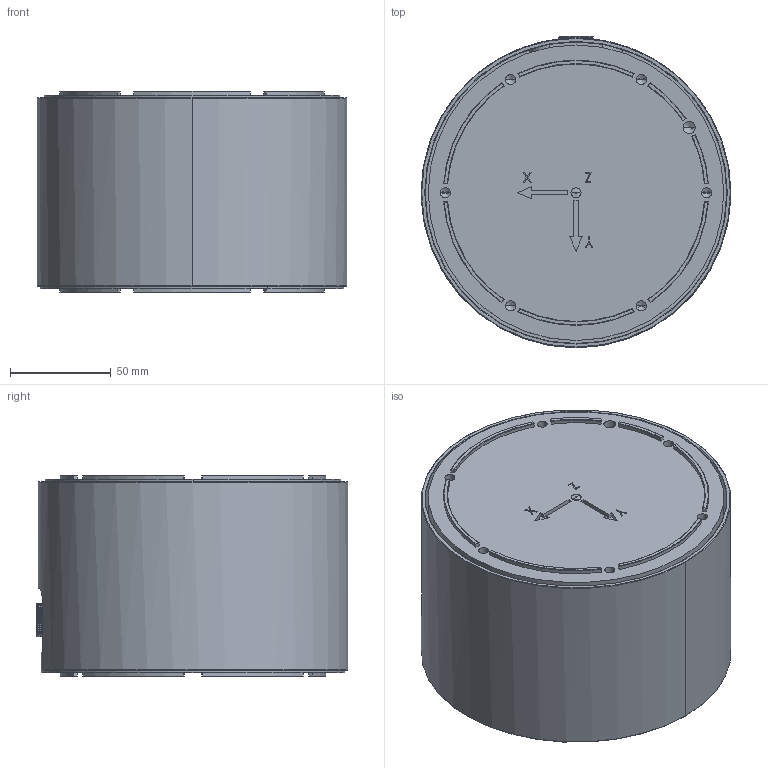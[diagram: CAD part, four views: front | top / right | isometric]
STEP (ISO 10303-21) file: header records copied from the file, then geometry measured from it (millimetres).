
FILE_DESCRIPTION (( 'STEP AP203' ), '1' );
FILE_NAME ('B-2020-0024-00538.STEP', '2020-12-14T12:52:19', ( '' ), ( '' ), 'SwSTEP 2.0', 'SolidWorks 2018', '' );
FILE_SCHEMA (( 'CONFIG_CONTROL_DESIGN' ));
Length unit declared in the file: millimetre
Products named in the file (9): E-2020-0024-00525; E-2020-0024-00517; E-2020-0024-00695; E-2020-0024-00530; B-2020-0024-00707; NT-2018-00051; B-2020-0024-00538; E-2020-0024-00528; E-2020-0024-00692
Assembly tree (8 placements, depth 3):
  B-2020-0024-00538
    E-2020-0024-00517
    E-2020-0024-00525
    E-2020-0024-00530
    E-2020-0024-00528
    NT-2018-00051
    B-2020-0024-00707
      E-2020-0024-00692
    E-2020-0024-00695
Bounding box: 154 x 155 x 100 mm (x, y, z)
Volume: 354329.5 mm3; surface area: 216722.2 mm2
Topology: 9 solids, 9 shells, 2372 faces, 6821 edges, 4500 vertices
Faces by surface type: cylinder 989, plane 719, cone 413, bspline 251
Entity records: 101043 total; most frequent: CARTESIAN_POINT 43186, ORIENTED_EDGE 13298, DIRECTION 9808, EDGE_CURVE 6649, VERTEX_POINT 4500, AXIS2_PLACEMENT_3D 3768, B_SPLINE_CURVE_WITH_KNOTS 2724, EDGE_LOOP 2709
